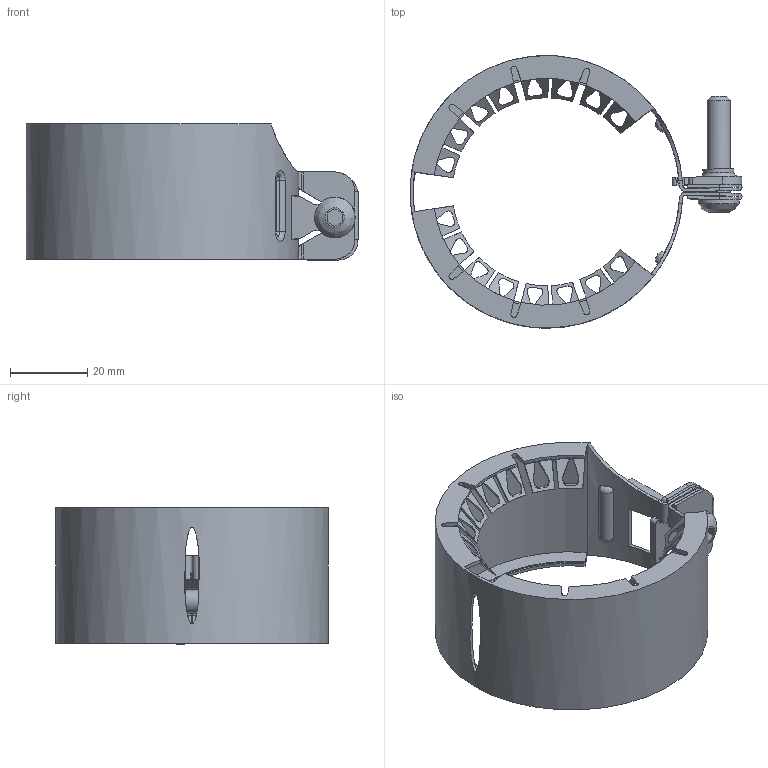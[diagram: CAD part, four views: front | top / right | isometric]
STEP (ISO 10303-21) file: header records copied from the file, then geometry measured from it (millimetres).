
FILE_DESCRIPTION(/* description */ (''),/* implementation_level */ '2;1');
FILE_NAME(/* name */ 'H:\Geberit-Teile\Export\Haltekralle\stp\390203.stp',/* time_stamp */ '2016-03-31T11:28:54+02:00',/* author */ ('seihe2'),/* organization */ (''),/* preprocessor_version */ 'ST-DEVELOPER v15.2',/* originating_system */ 'Autodesk Inventor 2014',/* authorisation */ '');
FILE_SCHEMA (('AUTOMOTIVE_DESIGN { 1 0 10303 214 3 1 1 }'));
Length unit declared in the file: millimetre
Products named in the file (1): 390203
Bounding box: 85.7 x 70.38 x 35.15 mm (x, y, z)
Volume: 11132.1 mm3; surface area: 32008 mm2
Topology: 1 solids, 1 shells, 361 faces, 1072 edges, 693 vertices
Faces by surface type: plane 195, cylinder 110, cone 41, bspline 14, torus 1
Full cylindrical faces by diameter (mm): 6 x1, 8 x1, 10.5 x1
Entity records: 13709 total; most frequent: CARTESIAN_POINT 4036, ORIENTED_EDGE 2124, DIRECTION 1804, EDGE_CURVE 1062, VERTEX_POINT 689, AXIS2_PLACEMENT_3D 624, LINE 556, VECTOR 556
